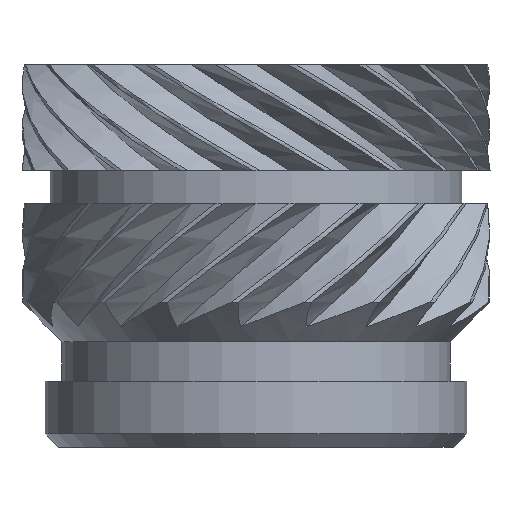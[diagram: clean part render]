
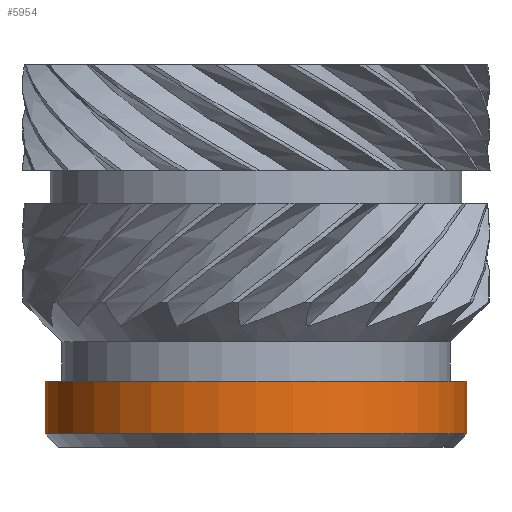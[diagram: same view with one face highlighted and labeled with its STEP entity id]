
A CAD part, front view. The second image highlights one B-rep face of the part: STEP entity #5954.
In plain terms, the highlighted cylindrical face has radius 3.2 mm (diameter 6.4 mm), a full revolution.
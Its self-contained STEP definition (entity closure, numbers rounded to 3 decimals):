
#463=FACE_OUTER_BOUND('',#810,.T.);
#810=EDGE_LOOP('',(#4719,#4720,#4721,#4722,#4723));
#1626=CIRCLE('',#6334,3.2);
#1627=CIRCLE('',#6335,3.2);
#1628=CIRCLE('',#6337,3.2);
#1649=LINE('',#11958,#1973);
#1973=VECTOR('',#6779,3.2);
#2568=VERTEX_POINT('',#11950);
#2569=VERTEX_POINT('',#11951);
#2570=VERTEX_POINT('',#11956);
#3342=EDGE_CURVE('',#2568,#2569,#1626,.T.);
#3343=EDGE_CURVE('',#2569,#2568,#1627,.T.);
#3345=EDGE_CURVE('',#2570,#2570,#1628,.T.);
#3346=EDGE_CURVE('',#2570,#2569,#1649,.T.);
#4719=ORIENTED_EDGE('',*,*,#3345,.F.);
#4720=ORIENTED_EDGE('',*,*,#3346,.T.);
#4721=ORIENTED_EDGE('',*,*,#3342,.F.);
#4722=ORIENTED_EDGE('',*,*,#3343,.F.);
#4723=ORIENTED_EDGE('',*,*,#3346,.F.);
#5802=CYLINDRICAL_SURFACE('',#6336,3.2);
#5954=ADVANCED_FACE('',(#463),#5802,.T.);
#6334=AXIS2_PLACEMENT_3D('',#11952,#6770,#6771);
#6335=AXIS2_PLACEMENT_3D('',#11953,#6772,#6773);
#6336=AXIS2_PLACEMENT_3D('',#11955,#6775,#6776);
#6337=AXIS2_PLACEMENT_3D('',#11957,#6777,#6778);
#6770=DIRECTION('center_axis',(0.,0.,-1.));
#6771=DIRECTION('ref_axis',(-1.,0.,0.));
#6772=DIRECTION('center_axis',(0.,0.,-1.));
#6773=DIRECTION('ref_axis',(-1.,0.,0.));
#6775=DIRECTION('center_axis',(0.,0.,1.));
#6776=DIRECTION('ref_axis',(1.,0.,0.));
#6777=DIRECTION('center_axis',(0.,0.,1.));
#6778=DIRECTION('ref_axis',(1.,0.,0.));
#6779=DIRECTION('',(0.,0.,-1.));
#11950=CARTESIAN_POINT('',(3.2,0.,0.2));
#11951=CARTESIAN_POINT('',(-3.2,0.,0.2));
#11952=CARTESIAN_POINT('Origin',(0.,0.,0.2));
#11953=CARTESIAN_POINT('Origin',(0.,0.,0.2));
#11955=CARTESIAN_POINT('Origin',(0.,0.,0.5));
#11956=CARTESIAN_POINT('',(-3.2,0.,1.));
#11957=CARTESIAN_POINT('Origin',(0.,0.,1.));
#11958=CARTESIAN_POINT('',(-3.2,0.,0.5));
